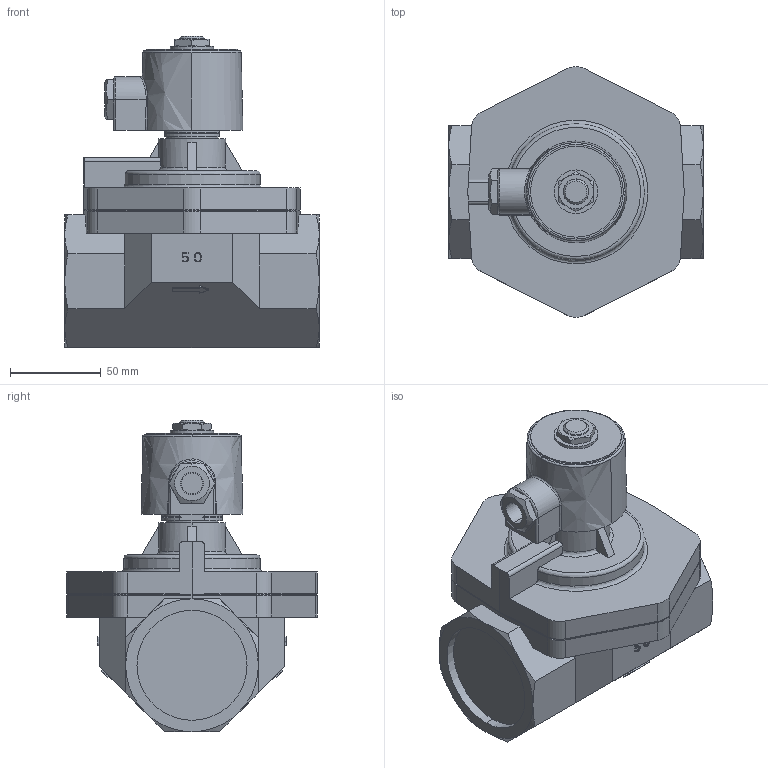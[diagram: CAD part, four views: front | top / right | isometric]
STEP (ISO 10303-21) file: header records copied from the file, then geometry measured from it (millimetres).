
FILE_DESCRIPTION( (''), '2;1');
FILE_NAME ('PC1056.13084.DP-200(2B)_17380.stp','2024-07-19T09:42:17',(''),(''),'spGate 19.8.4 (****-****-****-****)','','');
FILE_SCHEMA (('AUTOMOTIVE_DESIGN'));
Length unit declared in the file: millimetre
Products named in the file (5): Assembly; DP200(50A)本体; ACコイル10A; DP-200(32_50A）パイプP; コイル六角ナット座金
Assembly tree (4 placements, depth 2):
  Assembly
    DP200(50A)本体
    ACコイル10A
    DP-200(32_50A）パイプP
    コイル六角ナット座金
Bounding box: 140 x 138 x 171.2 mm (x, y, z)
Volume: 1114261.5 mm3; surface area: 110568.6 mm2
Topology: 4 solids, 4 shells, 363 faces, 876 edges, 547 vertices
Faces by surface type: plane 169, bspline 98, cylinder 96
Entity records: 20201 total; most frequent: CARTESIAN_POINT 5222, ORIENTED_EDGE 1752, DIRECTION 1433, COLOUR_RGB 1243, PRESENTATION_STYLE_ASSIGNMENT 1243, STYLED_ITEM 1243, EDGE_CURVE 876, DRAUGHTING_PRE_DEFINED_CURVE_FONT 876
